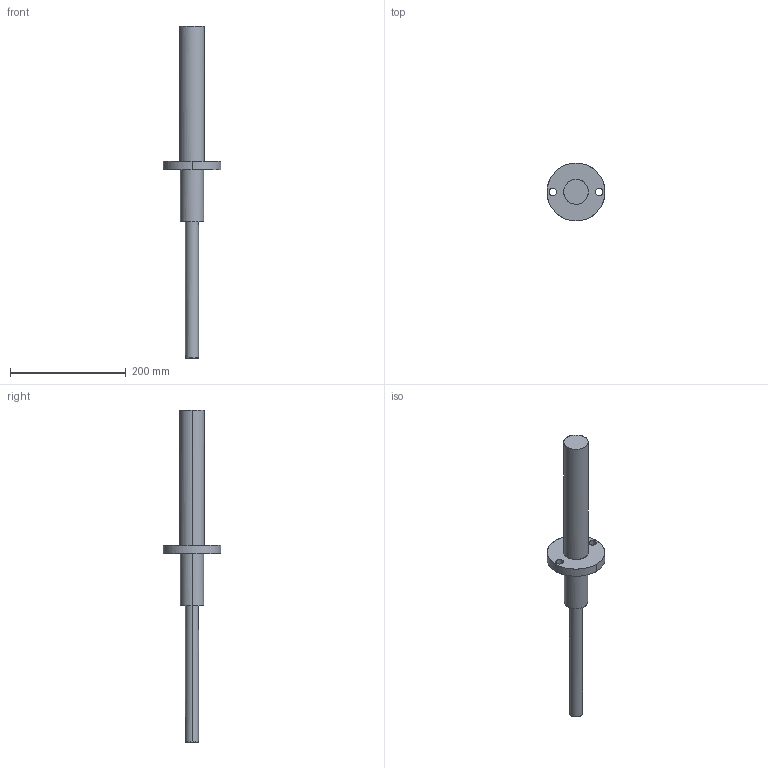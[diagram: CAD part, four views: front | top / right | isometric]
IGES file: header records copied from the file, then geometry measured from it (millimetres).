
Global section: file name: E:\UnigraphicsGraphicData\MISUMI_PRESS-PARTS\IGES\3d_papu220-90_01693_r00.igs; native system: NX V5.0; preprocessor: UGS NX IGES V5.0; author: MISUMI; date: 20110105.162225; units: millimetre
Bounding box: 100 x 100 x 573 mm (x, y, z)
Surface area: 85211.4 mm2 (no closed solid volume)
Topology: 0 solids, 0 shells, 21 faces, 232 edges, 232 vertices
Faces by surface type: bspline 21
